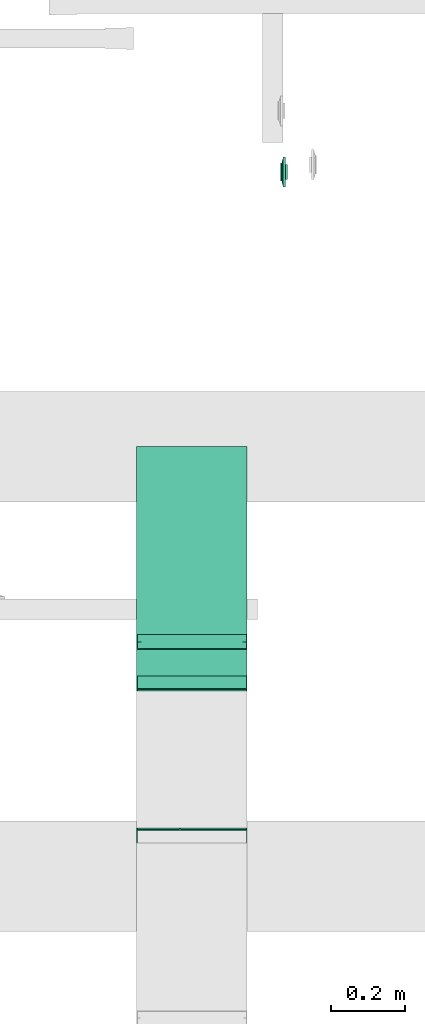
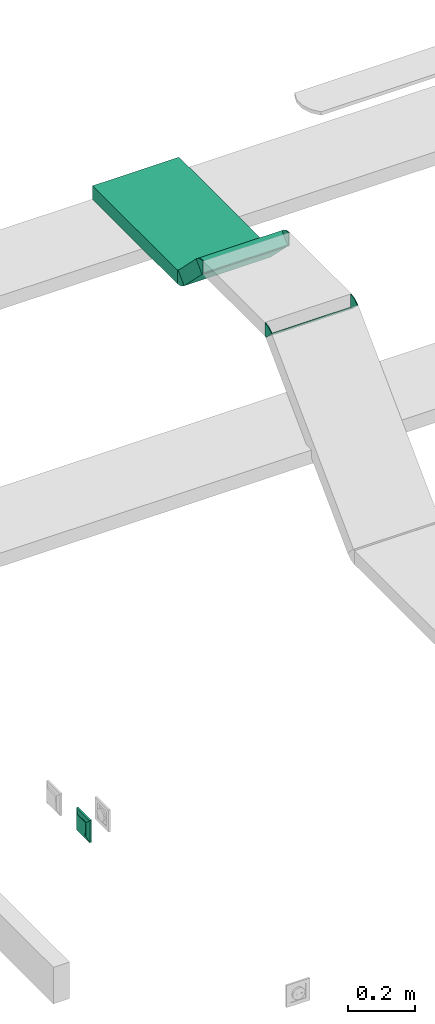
# One storey, part 100 of 153: 3 flow fittings, 2 flow segments, 1 flow terminal.
"""IFC2X3 building model written with IfcOpenShell, lengths in metres."""

import ifcopenshell
import ifcopenshell.guid

model = None  # the IFC model being written
_history = None  # IfcOwnerHistory: only IFC2X3 demands one
_inside = {}  # id of a spatial element -> (the spatial element, [elements in it])
_under = {}  # id of a project, library or spatial element -> (it, [spatial elements below it])
_declared = {}  # id of a project -> (the project, [libraries it declares])
_typed = {}  # id of a type object -> (the type object, [elements of that type])
_made_of = {}  # id of a material, layer set ... -> (it, [elements and type objects made of it])


def new_model(schema):
    """Start an empty IFC model of exactly this schema.

    Asked for "IFC4X3", IfcOpenShell would pick the latest addendum, in which some entities
    have other attributes; the version numbers below select the first issue.
    IFC2X3 requires an IfcOwnerHistory on every rooted entity: one is made here for all.
    """
    global model, _history
    if schema == "IFC4X3":
        model = ifcopenshell.file(schema_version=(4, 3, 0, 0))
    else:
        model = ifcopenshell.file(schema=schema)
    _inside.clear()
    _under.clear()
    _declared.clear()
    _typed.clear()
    _made_of.clear()
    _history = None
    if model.schema == "IFC2X3":
        org = make("IfcOrganization", Name="unknown")
        user = make(
            "IfcPersonAndOrganization",
            ThePerson=make("IfcPerson", FamilyName="unknown"),
            TheOrganization=org,
        )
        app = make(
            "IfcApplication",
            ApplicationDeveloper=org,
            Version="unknown",
            ApplicationFullName="unknown",
            ApplicationIdentifier="unknown",
        )
        _history = make(
            "IfcOwnerHistory",
            OwningUser=user,
            OwningApplication=app,
            ChangeAction="ADDED",
            CreationDate=0,
        )
    return model


def make(cls, **values):
    """One entity of the class cls with the attributes given. An attribute that is None is left unset."""
    return model.create_entity(
        cls, **{name: value for name, value in values.items() if value is not None}
    )


def entity(cls, *values):
    """Any entity or typed value of the class cls, its attributes in the order of the schema. None: left unset."""
    e = model.create_entity(cls)
    for i, value in enumerate(values):
        if value is not None:
            e[i] = value
    return e


def rooted(cls, **values):
    """An entity with a GlobalId (a new one), such as an element, a storey or a relation."""
    return make(cls, GlobalId=ifcopenshell.guid.new(), OwnerHistory=_history, **values)


def si_unit(unit_type, name, prefix=None):
    """IfcSIUnit, for example si_unit("LENGTHUNIT", "METRE", prefix="MILLI")."""
    return make("IfcSIUnit", UnitType=unit_type, Prefix=prefix, Name=name)


def converted_unit(unit_type, name, factor, base, dimensions=None, offset=None):
    """IfcConversionBasedUnit, such as the inch: factor (a typed value) times the base unit."""
    return make(
        "IfcConversionBasedUnit"
        if offset is None
        else "IfcConversionBasedUnitWithOffset",
        ConversionOffset=offset,
        Dimensions=None
        if dimensions is None
        else entity("IfcDimensionalExponents", *dimensions),
        UnitType=unit_type,
        Name=name,
        ConversionFactor=make(
            "IfcMeasureWithUnit", ValueComponent=factor, UnitComponent=base
        ),
    )


def derived_unit(unit_type, elements):
    """IfcDerivedUnit: a product of units, each with its exponent."""
    return make(
        "IfcDerivedUnit",
        Elements=[
            make("IfcDerivedUnitElement", Unit=unit, Exponent=power)
            for unit, power in elements
        ],
        UnitType=unit_type,
    )


def assignment(units):
    """IfcUnitAssignment: the units of a project."""
    return None if units is None else make("IfcUnitAssignment", Units=units)


def point(xyz):
    """IfcCartesianPoint."""
    return None if xyz is None else make("IfcCartesianPoint", Coordinates=xyz)


def direction(xyz):
    """IfcDirection."""
    return None if xyz is None else make("IfcDirection", DirectionRatios=xyz)


def frame(location, z_axis=None, x_axis=None):
    """IfcAxis2Placement3D, a coordinate frame: its origin and axes. An axis left out is left unset."""
    return make(
        "IfcAxis2Placement3D",
        Location=point(location),
        Axis=direction(z_axis),
        RefDirection=direction(x_axis),
    )


def frame_2d(location, x_axis=None):
    """IfcAxis2Placement2D, a coordinate frame in the plane: its origin and x axis."""
    return make(
        "IfcAxis2Placement2D", Location=point(location), RefDirection=direction(x_axis)
    )


def origin():
    """The frame at (0, 0, 0) with its axes left unset."""
    return frame((0.0, 0.0, 0.0))


def origin_2d_with_axis():
    """The frame at (0, 0) in the plane with the x axis (1, 0) written out."""
    return frame_2d((0.0, 0.0), x_axis=(1.0, 0.0))


def place(relative_to, where):
    """IfcLocalPlacement: puts the frame where relative to a parent placement (None: the world)."""
    return make(
        "IfcLocalPlacement", PlacementRelTo=relative_to, RelativePlacement=where
    )


def context(
    kind, dimensions, precision=None, world=None, true_north=None, identifier=None
):
    """IfcGeometricRepresentationContext, for example the 3D "Model" context."""
    return make(
        "IfcGeometricRepresentationContext",
        ContextIdentifier=identifier,
        ContextType=kind,
        CoordinateSpaceDimension=dimensions,
        Precision=precision,
        WorldCoordinateSystem=world,
        TrueNorth=true_north,
    )


def subcontext(parent, identifier, kind, view, scale=None):
    """IfcGeometricRepresentationSubContext, for example "Body" below "Model"."""
    return make(
        "IfcGeometricRepresentationSubContext",
        ContextIdentifier=identifier,
        ContextType=kind,
        ParentContext=parent,
        TargetScale=scale,
        TargetView=view,
    )


def project(units=None, contexts=None):
    """IfcProject with its units and contexts."""
    return rooted(
        "IfcProject",
        Name="project",
        RepresentationContexts=contexts,
        UnitsInContext=assignment(units),
    )


def spatial(cls, under=None, at=None, **own):
    """A site, building, storey or space (cls), placed at a placement, below another one or the project."""
    s = rooted(cls, ObjectPlacement=at, **own)
    if under is not None:
        _under.setdefault(under.id(), (under, []))[1].append(s)
    return s


def profile(cls, at=None, kind="AREA", **sizes):
    """A parametric profile (cls). Its sizes go by their IFC names, for example OverallWidth=200.0."""
    return make(cls, ProfileType=kind, Position=at, **sizes)


def rectangle(**sizes):
    """IfcRectangleProfileDef."""
    return profile("IfcRectangleProfileDef", **sizes)


def extrude(swept, where, along, depth):
    """IfcExtrudedAreaSolid: the profile swept, set in the frame where, extruded along a direction by depth."""
    return make(
        "IfcExtrudedAreaSolid",
        SweptArea=swept,
        Position=where,
        ExtrudedDirection=direction(along),
        Depth=depth,
    )


def faces_of(points, faces, orient=None, outer=None):
    """IfcFace entities. A face is a list of loops; a loop is a list of indices into points, from 0.

    orient and outer hold one flag for each loop. By default every Orientation is true, the
    first loop of a face is its IfcFaceOuterBound and the others are IfcFaceBound.
    """
    made = []
    for i, loops in enumerate(faces):
        bounds = []
        for j, loop in enumerate(loops):
            is_outer = j == 0 if outer is None else outer[i][j]
            bounds.append(
                make(
                    "IfcFaceOuterBound" if is_outer else "IfcFaceBound",
                    Bound=make("IfcPolyLoop", Polygon=[points[k] for k in loop]),
                    Orientation=True if orient is None else orient[i][j],
                )
            )
        made.append(make("IfcFace", Bounds=bounds))
    return made


def faceted_brep(points, faces, orient=None, outer=None, voids=None):
    """IfcFacetedBrep: a solid bounded by flat faces; with voids (closed shells), ...WithVoids."""
    shared = [point(p) for p in points]
    hull = make("IfcClosedShell", CfsFaces=faces_of(shared, faces, orient, outer))
    if voids is None:
        return make("IfcFacetedBrep", Outer=hull)
    return make(
        "IfcFacetedBrepWithVoids",
        Outer=hull,
        Voids=[
            make(cls, CfsFaces=faces_of(shared, fs, o, b)) for cls, fs, o, b in voids
        ],
    )


def shape(context_of_items, identifier, shape_type, items):
    """IfcShapeRepresentation: the items that make up one representation, for example the "Body"."""
    return make(
        "IfcShapeRepresentation",
        ContextOfItems=context_of_items,
        RepresentationIdentifier=identifier,
        RepresentationType=shape_type,
        Items=items,
    )


def source(mapping_origin, context_of_items, identifier, shape_type, items):
    """IfcRepresentationMap: a shape defined once, which mapped items show again and again."""
    return make(
        "IfcRepresentationMap",
        MappingOrigin=mapping_origin,
        MappedRepresentation=shape(context_of_items, identifier, shape_type, items),
    )


def transform(
    local_origin,
    x_axis=None,
    y_axis=None,
    z_axis=None,
    scale=None,
    scale2=None,
    scale3=None,
    uniform=True,
):
    """IfcCartesianTransformationOperator3D, or its non-uniform kind. x_axis, y_axis, z_axis: its Axis1, 2, 3."""
    if uniform:
        return make(
            "IfcCartesianTransformationOperator3D",
            Axis1=direction(x_axis),
            Axis2=direction(y_axis),
            LocalOrigin=point(local_origin),
            Scale=scale,
            Axis3=direction(z_axis),
        )
    return make(
        "IfcCartesianTransformationOperator3DnonUniform",
        Axis1=direction(x_axis),
        Axis2=direction(y_axis),
        LocalOrigin=point(local_origin),
        Scale=scale,
        Axis3=direction(z_axis),
        Scale2=scale2,
        Scale3=scale3,
    )


def mapped(mapping_source, mapping_target):
    """IfcMappedItem: shows the shape of a source again, moved by a transform."""
    return make(
        "IfcMappedItem", MappingSource=mapping_source, MappingTarget=mapping_target
    )


def made_of(thing, what):
    """Note that an element or type object is made of a material, layer set ...; save() writes the relation."""
    if what is not None:
        _made_of.setdefault(what.id(), (what, []))[1].append(thing)
    return thing


def type_object(cls, material=None, **own):
    """A type object (cls), such as IfcWallType, which elements share."""
    return made_of(rooted(cls, **own), material)


def type_shapes(of_type, sources):
    """Give a type object the sources (RepresentationMaps) that its elements show as mapped items."""
    of_type.RepresentationMaps = sources


def element(
    cls,
    number,
    at=None,
    inside=None,
    cuts=None,
    type_object=None,
    material=None,
    context=None,
    identifier="Body",
    shape_type=None,
    held_by="IfcProductDefinitionShape",
    body=None,
    shapes=None,
    **own,
):
    """One element of the class cls, such as IfcWall. Its Tag is "e" and its number.

    at: its placement. inside: the storey or other place that contains it. cuts: it is an
    opening in that element (IfcRelVoidsElement). A single representation is given by context,
    identifier, shape_type and body (its items); several are given by shapes. held_by: the class
    of the entity that holds the representations. save() writes the other relations.
    """
    e = rooted(cls, Tag="e%d" % number, ObjectPlacement=at, **own)
    if body is not None:
        shapes = [shape(context, identifier, shape_type, body)]
    if shapes is not None:
        e.Representation = make(held_by, Representations=shapes)
    if inside is not None:
        _inside.setdefault(inside.id(), (inside, []))[1].append(e)
    if cuts is not None:
        rooted(
            "IfcRelVoidsElement", RelatingBuildingElement=cuts, RelatedOpeningElement=e
        )
    if type_object is not None:
        _typed.setdefault(type_object.id(), (type_object, []))[1].append(e)
    return made_of(e, material)


def aggregate(whole, parts):
    """IfcRelAggregates: a whole, such as a stair, and the parts it consists of."""
    return rooted("IfcRelAggregates", RelatingObject=whole, RelatedObjects=parts)


def save(model, path):
    """Write the relations noted so far, then the file.

    IfcRelAggregates (storeys below a building ...), IfcRelContainedInSpatialStructure (elements
    in a storey), IfcRelDefinesByType, IfcRelAssociatesMaterial and IfcRelDeclares: one each for
    every whole, place, type object, material and project.
    """
    for whole, parts in _under.values():
        aggregate(whole, parts)
    for where, things in _inside.values():
        rooted(
            "IfcRelContainedInSpatialStructure",
            RelatedElements=things,
            RelatingStructure=where,
        )
    for kind, things in _typed.values():
        rooted("IfcRelDefinesByType", RelatedObjects=things, RelatingType=kind)
    for what, things in _made_of.values():
        rooted("IfcRelAssociatesMaterial", RelatedObjects=things, RelatingMaterial=what)
    for by, libraries in _declared.values():
        rooted("IfcRelDeclares", RelatingContext=by, RelatedDefinitions=libraries)
    model.write(path)


model = new_model("IFC2X3")

# Units and contexts
model_context = context("Model", 3, precision=1e-05, world=origin(), true_north=direction((6.12303176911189e-17, 1.0)))
body_context = subcontext(model_context, "Body", "Model", "MODEL_VIEW")
ifc_project = project(units=[si_unit("LENGTHUNIT", "METRE"), si_unit("AREAUNIT", "SQUARE_METRE"), si_unit("VOLUMEUNIT", "CUBIC_METRE"), converted_unit("PLANEANGLEUNIT", "DEGREE", entity("IfcRatioMeasure", 0.0174532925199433), si_unit("PLANEANGLEUNIT", "RADIAN"), dimensions=[0, 0, 0, 0, 0, 0, 0]), si_unit("MASSUNIT", "GRAM", prefix="KILO"), derived_unit("MASSDENSITYUNIT", [(si_unit("MASSUNIT", "GRAM", prefix="KILO"), 1), (si_unit("LENGTHUNIT", "METRE"), -3)]), si_unit("TIMEUNIT", "SECOND"), si_unit("FREQUENCYUNIT", "HERTZ"), si_unit("THERMODYNAMICTEMPERATUREUNIT", "DEGREE_CELSIUS"), derived_unit("THERMALTRANSMITTANCEUNIT", [(si_unit("MASSUNIT", "GRAM", prefix="KILO"), 1), (si_unit("THERMODYNAMICTEMPERATUREUNIT", "KELVIN"), -1), (si_unit("TIMEUNIT", "SECOND"), -3)]), derived_unit("VOLUMETRICFLOWRATEUNIT", [(si_unit("LENGTHUNIT", "METRE"), 3), (si_unit("TIMEUNIT", "SECOND"), -1)]), si_unit("ELECTRICCURRENTUNIT", "AMPERE"), si_unit("ELECTRICVOLTAGEUNIT", "VOLT"), si_unit("POWERUNIT", "WATT"), si_unit("FORCEUNIT", "NEWTON"), si_unit("ILLUMINANCEUNIT", "LUX"), si_unit("LUMINOUSFLUXUNIT", "LUMEN"), si_unit("LUMINOUSINTENSITYUNIT", "CANDELA"), derived_unit("USERDEFINED", [(si_unit("MASSUNIT", "GRAM", prefix="KILO"), -1), (si_unit("LENGTHUNIT", "METRE"), -2), (si_unit("TIMEUNIT", "SECOND"), 3), (si_unit("LUMINOUSFLUXUNIT", "LUMEN"), 1)]), derived_unit("LINEARVELOCITYUNIT", [(si_unit("LENGTHUNIT", "METRE"), 1), (si_unit("TIMEUNIT", "SECOND"), -1)]), si_unit("PRESSUREUNIT", "PASCAL"), derived_unit("USERDEFINED", [(si_unit("LENGTHUNIT", "METRE"), -2), (si_unit("MASSUNIT", "GRAM", prefix="KILO"), 1), (si_unit("TIMEUNIT", "SECOND"), -2)])], contexts=[model_context])

# Site, building, storey
site_placement = place(None, origin())
site = spatial("IfcSite", under=ifc_project, at=site_placement, Name="Default", CompositionType="ELEMENT")
building_placement = place(site_placement, origin())
building = spatial("IfcBuilding", under=site, at=building_placement, CompositionType="ELEMENT")
storey_placement = place(building_placement, frame((0.0, 0.0, -4.62)))
storey = spatial("IfcBuildingStorey", under=building, at=storey_placement, Name="S02", CompositionType="ELEMENT", Elevation=-4.62)

# Flow segments
cable_carrier_segment_type = type_object("IfcCableCarrierSegmentType", Name="Cable Tray with Fittings:Chemins de câbles en treillis_Chemins de câbles en treillis", PredefinedType="NOTDEFINED")
flow_segment_1_placement = place(building_placement, frame((0.0, 0.0, -4.62)))
element("IfcFlowSegment", 1, at=flow_segment_1_placement, inside=storey, type_object=cable_carrier_segment_type, Name="Cable Tray with Fittings:Chemins de câbles en treillis_Chemins de câbles en treillis", ObjectType="Cable Tray with Fittings:Chemins de câbles en treillis_Chemins de câbles en treillis", context=body_context, shape_type="SweptSolid", body=[
    extrude(rectangle(XDim=0.152073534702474, YDim=0.0500000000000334, at=origin_2d_with_axis()), frame((57.0504483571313, -189.286007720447, 4.02228866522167), z_axis=(1.0, 0.0, 0.0), x_axis=(0.0, 0.707106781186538, -0.707106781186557)), (0.0, 0.0, 1.0), 0.300000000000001),
])
flow_segment_2_placement = place(building_placement, frame((0.0, 0.0, -4.62)))
element("IfcFlowSegment", 2, at=flow_segment_2_placement, inside=storey, type_object=cable_carrier_segment_type, Name="Cable Tray with Fittings:Chemins de câbles en treillis_Chemins de câbles en treillis", ObjectType="Cable Tray with Fittings:Chemins de câbles en treillis_Chemins de câbles en treillis", context=body_context, shape_type="SweptSolid", body=[
    extrude(rectangle(XDim=0.509213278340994, YDim=0.300000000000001, at=origin_2d_with_axis()), frame((57.2004483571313, -188.954658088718, 3.93400521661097), z_axis=(0.0, 0.0, 1.0), x_axis=(0.0, -1.0, 0.0)), (0.0, 0.0, 1.0), 0.05),
])

# Flow terminal
light_fixture_type = type_object("IfcLightFixtureType", Name="VV IP21", PredefinedType="NOTDEFINED")
shared_shape_1 = source(origin(), body_context, "Body", "Brep", [
    faceted_brep([(0.0, 0.0209999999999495, -0.00460000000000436), (0.00543519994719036, 0.02028444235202, -0.00460000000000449), (0.0105000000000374, 0.0181865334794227, -0.00460000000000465), (0.0148492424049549, 0.014849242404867, -0.00460000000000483), (0.0181865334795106, 0.0104999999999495, -0.00460000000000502), (0.0202844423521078, 0.00543519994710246, -0.00460000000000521), (0.0210000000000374, 0.0, -0.00460000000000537), (0.0202844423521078, -0.00543519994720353, -0.00460000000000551), (0.0181865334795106, -0.0105000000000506, -0.0046000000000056), (0.0148492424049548, -0.0148492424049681, -0.00460000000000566), (0.0105000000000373, -0.0181865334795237, -0.00460000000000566), (0.00543519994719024, -0.0202844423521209, -0.00460000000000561), (0.0, -0.0210000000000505, -0.00460000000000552), (-0.00543519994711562, -0.0202844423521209, -0.00460000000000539), (-0.0104999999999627, -0.0181865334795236, -0.00460000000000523), (-0.0148492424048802, -0.0148492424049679, -0.00460000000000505), (-0.0181865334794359, -0.0105000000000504, -0.00460000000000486), (-0.0202844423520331, -0.00543519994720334, -0.00460000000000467), (-0.0209999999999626, 0.0, -0.00460000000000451), (-0.020284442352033, 0.00543519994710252, -0.00460000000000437), (-0.0181865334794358, 0.0104999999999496, -0.00460000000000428), (-0.0148492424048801, 0.0148492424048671, -0.00460000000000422), (-0.0104999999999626, 0.0181865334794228, -0.00460000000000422), (-0.00543519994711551, 0.02028444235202, -0.00460000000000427), (-0.020284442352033, -0.00543519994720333, 0.0), (-0.0209999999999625, 0.0, 0.0), (-0.0181865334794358, -0.0105000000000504, 0.0), (-0.0104999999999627, -0.0181865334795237, 0.0), (-0.0148492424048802, -0.0148492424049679, 0.0), (-0.00543519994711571, -0.020284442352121, 0.0), (0.0, -0.0210000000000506, 0.0), (0.00543519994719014, -0.0202844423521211, 0.0), (0.0105000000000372, -0.018186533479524, 0.0), (0.0181865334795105, -0.0105000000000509, 0.0), (0.0148492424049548, -0.0148492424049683, 0.0), (0.0202844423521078, -0.00543519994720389, 0.0), (0.0210000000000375, 0.0, 0.0), (0.0202844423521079, 0.00543519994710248, 0.0), (0.0181865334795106, 0.0104999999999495, 0.0), (0.0105000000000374, 0.0181865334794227, 0.0), (0.0148492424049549, 0.014849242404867, 0.0), (0.00543519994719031, 0.0202844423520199, 0.0), (0.0, 0.0209999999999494, 0.0), (-0.00543519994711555, 0.0202844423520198, 0.0), (-0.0104999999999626, 0.0181865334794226, 0.0), (-0.0181865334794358, 0.0104999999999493, 0.0), (-0.0148492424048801, 0.0148492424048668, 0.0), (-0.020284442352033, 0.00543519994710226, 0.0)], [[[0, 1, 2, 3, 4, 5, 6, 7, 8, 9, 10, 11, 12, 13, 14, 15, 16, 17, 18, 19, 20, 21, 22, 23]], [[17, 24, 25, 18]], [[16, 26, 24, 17]], [[27, 28, 15, 14]], [[16, 15, 28, 26]], [[29, 27, 14, 13]], [[30, 29, 13, 12]], [[11, 31, 30, 12]], [[10, 32, 31, 11]], [[33, 34, 9, 8]], [[10, 9, 34, 32]], [[35, 33, 8, 7]], [[36, 35, 7, 6]], [[5, 37, 36, 6]], [[4, 38, 37, 5]], [[39, 40, 3, 2]], [[4, 3, 40, 38]], [[41, 39, 2, 1]], [[42, 41, 1, 0]], [[23, 43, 42, 0]], [[22, 44, 43, 23]], [[45, 46, 21, 20]], [[22, 21, 46, 44]], [[47, 45, 20, 19]], [[25, 47, 19, 18]], [[25, 24, 26, 28, 27, 29, 30, 31, 32, 34, 33, 35, 36, 37, 38, 40, 39, 41, 42, 43, 44, 46, 45, 47]]]),
    faceted_brep([(0.0270000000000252, 0.026999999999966, 0.0103999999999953), (-0.0269999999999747, 0.026999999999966, 0.0103999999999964), (-0.0269999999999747, -0.0270000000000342, 0.0103999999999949), (0.0270000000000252, -0.0270000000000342, 0.0103999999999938), (-0.0254999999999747, 0.0258096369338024, 0.0103999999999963), (0.0255000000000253, 0.0258096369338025, 0.0103999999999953), (0.0255000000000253, -0.0255000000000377, 0.0103999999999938), (-0.0254999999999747, -0.0255000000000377, 0.0103999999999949), (0.0270000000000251, 0.0269999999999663, 0.00199999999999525), (0.0270000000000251, -0.0270000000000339, 0.00199999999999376), (-0.0269999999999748, -0.0270000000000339, 0.00199999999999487), (-0.0269999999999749, 0.0269999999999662, 0.00199999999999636), (0.0255000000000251, 0.0258096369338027, 0.00199999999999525), (-0.0254999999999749, 0.0258096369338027, 0.0019999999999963), (-0.0254999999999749, -0.0255000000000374, 0.00199999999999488), (0.0255000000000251, -0.0255000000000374, 0.00199999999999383)], [[[0, 1, 2, 3], [4, 5, 6, 7]], [[8, 9, 10, 11], [12, 13, 14, 15]], [[1, 0, 8, 11]], [[2, 1, 11, 10]], [[3, 2, 10, 9]], [[0, 3, 9, 8]], [[12, 5, 4, 13]], [[13, 4, 7, 14]], [[14, 7, 6, 15]], [[5, 12, 15, 6]]]),
    faceted_brep([(0.0250000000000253, 0.0253096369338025, 0.00659999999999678), (0.0250000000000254, 0.0253096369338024, 0.0117095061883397), (0.0250000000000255, -0.0245000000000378, 0.0142232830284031), (0.0250000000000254, -0.0250000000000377, 0.0117095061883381), (0.0250000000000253, -0.0250000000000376, 0.00659999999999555), (-0.0249999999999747, 0.0253096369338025, 0.00659999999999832), (-0.0249999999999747, -0.0250000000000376, 0.00659999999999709), (-0.0249999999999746, -0.0250000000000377, 0.0117095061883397), (-0.0249999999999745, -0.0245000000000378, 0.0142232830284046), (-0.0249999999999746, 0.0253096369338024, 0.0117095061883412)], [[[0, 1, 2, 3, 4]], [[5, 6, 7, 8, 9]], [[1, 0, 5, 9]], [[2, 1, 9, 8]], [[3, 2, 8, 7]], [[4, 3, 7, 6]], [[0, 4, 6, 5]]]),
    faceted_brep([(0.027000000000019, 0.0269999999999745, 0.00659999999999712), (-0.0269999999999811, 0.0269999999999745, 0.00659999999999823), (-0.026999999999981, -0.0270000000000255, 0.00659999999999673), (0.027000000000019, -0.0270000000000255, 0.00659999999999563), (0.040350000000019, 0.0403499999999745, 0.00659999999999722), (0.040350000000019, -0.0403500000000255, 0.00659999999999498), (-0.0403499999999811, -0.0403500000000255, 0.00659999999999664), (-0.0403499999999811, 0.0403499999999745, 0.00659999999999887), (-0.026999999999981, 0.0269999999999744, 0.0103999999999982), (0.027000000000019, 0.0269999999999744, 0.0103999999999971), (-0.026999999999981, -0.0270000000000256, 0.0103999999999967), (0.027000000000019, -0.0270000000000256, 0.0103999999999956)], [[[0, 1, 2, 3], [4, 5, 6, 7]], [[4, 7, 8, 9]], [[7, 6, 10, 8]], [[6, 5, 11, 10]], [[5, 4, 9, 11]], [[0, 9, 8, 1]], [[1, 8, 10, 2]], [[2, 10, 11, 3]], [[9, 0, 3, 11]]], outer=[[False, True], [True], [True], [True], [True], [True], [True], [True], [True]]),
    faceted_brep([(0.040350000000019, 0.0403499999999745, 0.00659999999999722), (-0.0403499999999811, 0.0403499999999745, 0.00659999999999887), (-0.0403499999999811, -0.0403500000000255, 0.00659999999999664), (0.040350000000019, -0.0403500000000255, 0.00659999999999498), (-0.0269999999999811, 0.0269999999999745, 0.00659999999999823), (0.0270000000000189, 0.0269999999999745, 0.00659999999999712), (0.0270000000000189, -0.0270000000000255, 0.00659999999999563), (-0.0269999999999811, -0.0270000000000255, 0.00659999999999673), (0.0403500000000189, 0.0403499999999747, 0.0), (0.0403500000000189, -0.0403500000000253, 0.0), (-0.0403499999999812, -0.0403500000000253, 0.0), (-0.0403499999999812, 0.0403499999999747, 0.0), (0.0270000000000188, 0.0269999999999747, 0.0), (-0.0269999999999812, 0.0269999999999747, 0.0), (-0.0269999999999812, -0.0270000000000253, 0.0), (0.0270000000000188, -0.0270000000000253, 0.0)], [[[0, 1, 2, 3], [4, 5, 6, 7]], [[8, 9, 10, 11], [12, 13, 14, 15]], [[1, 0, 8, 11]], [[2, 1, 11, 10]], [[3, 2, 10, 9]], [[0, 3, 9, 8]], [[12, 5, 4, 13]], [[13, 4, 7, 14]], [[14, 7, 6, 15]], [[5, 12, 15, 6]]]),
])
type_shapes(light_fixture_type, [shared_shape_1])
flow_terminal_placement = place(storey_placement, frame((57.4547436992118, -187.9545827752, 1.05000000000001), z_axis=(-1.0, 0.0, 0.0), x_axis=(0.0, -1.0, 0.0)))
element("IfcFlowTerminal", 3, at=flow_terminal_placement, inside=storey, type_object=light_fixture_type, Name="INT_Inter VV:VV IP21", ObjectType="INT_Inter VV:VV IP21", context=body_context, shape_type="MappedRepresentation", body=[
    mapped(shared_shape_1, transform((0.0, 0.0, 0.0), scale=1.0)),
])

# Flow fittings
cable_carrier_fitting_type_1 = type_object("IfcCableCarrierFittingType", Name="E_Bend_Vertical_Inside_CA_Generic_MEPcontent", PredefinedType="NOTDEFINED")
shared_shape_2 = source(origin(), body_context, "Body", "Brep", [
    faceted_brep([(-0.00886744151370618, 0.0264878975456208, 0.14746000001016), (-0.00886744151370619, 0.0264878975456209, 0.15), (0.0264878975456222, -0.00886744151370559, 0.15), (0.0264878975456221, -0.0088674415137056, 0.0), (0.0264878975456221, -0.00886744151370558, -0.15), (-0.00886744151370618, 0.0264878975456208, -0.15), (-0.00886744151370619, 0.0264878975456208, -0.14746000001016), (0.0246918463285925, -0.00707139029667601, -0.14746000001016), (0.0246918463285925, -0.00707139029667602, 0.0), (0.0246918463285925, -0.007071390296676, 0.14746000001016), (-0.0124595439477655, 0.025, -0.14746000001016), (-0.0124595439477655, 0.025, -0.15), (-0.0124595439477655, -0.025, -0.15), (-0.0124595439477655, -0.025, 0.0), (-0.0124595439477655, -0.025, 0.15), (-0.0124595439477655, 0.025, 0.15), (-0.0124595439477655, 0.025, 0.14746000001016), (-0.0124595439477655, -0.02246000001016, 0.14746000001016), (-0.0124595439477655, -0.02246000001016, 0.0), (-0.0124595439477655, -0.02246000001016, -0.14746000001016), (-0.00192044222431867, -0.0229036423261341, 0.15), (0.00861865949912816, -0.0208072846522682, 0.15), (0.0175532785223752, -0.0148373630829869, 0.15), (-0.0105155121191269, 0.0253866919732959, 0.15), (-0.0105155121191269, 0.0253866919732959, 0.14746000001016), (0.0161692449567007, -0.0127660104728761, 0.14746000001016), (0.00764664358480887, -0.0184606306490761, 0.14746000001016), (-0.00240645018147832, -0.0204603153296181, 0.14746000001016), (-0.00240645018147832, -0.0204603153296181, -0.14746000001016), (0.00764664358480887, -0.0184606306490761, -0.14746000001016), (0.0161692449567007, -0.0127660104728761, -0.14746000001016), (-0.0105155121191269, 0.0253866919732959, -0.14746000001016), (-0.0105155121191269, 0.0253866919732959, -0.15), (0.0175532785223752, -0.0148373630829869, -0.15), (0.00861865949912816, -0.0208072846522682, -0.15), (-0.00192044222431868, -0.0229036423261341, -0.15), (0.00352933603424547, -0.0226282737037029, 0.0), (0.0151733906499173, -0.0175669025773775, 0.0), (0.00279201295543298, -0.0201976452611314, 0.0), (0.0144110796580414, -0.0150688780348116, 0.0)], [[[0, 1, 2, 3, 4, 5, 6, 7, 8, 9]], [[10, 11, 12, 13, 14, 15, 16, 17, 18, 19]], [[15, 14, 20, 21, 22, 2, 1, 23]], [[24, 0, 9, 25, 26, 27, 17, 16]], [[10, 19, 28, 29, 30, 7, 6, 31]], [[32, 5, 4, 33, 34, 35, 12, 11]], [[35, 36, 13]], [[33, 3, 37]], [[34, 36, 35]], [[34, 37, 36]], [[37, 3, 22]], [[3, 33, 4]], [[2, 22, 3]], [[21, 20, 36]], [[37, 21, 36]], [[37, 34, 33]], [[20, 13, 36]], [[13, 20, 14]], [[12, 35, 13]], [[22, 21, 37]], [[31, 32, 11, 10]], [[15, 23, 24, 16]], [[6, 5, 32, 31]], [[1, 0, 24, 23]], [[18, 38, 28]], [[39, 8, 30]], [[28, 38, 29]], [[38, 39, 29]], [[25, 8, 39]], [[7, 30, 8]], [[8, 25, 9]], [[38, 27, 26]], [[38, 26, 39]], [[30, 29, 39]], [[38, 18, 27]], [[17, 27, 18]], [[18, 28, 19]], [[39, 26, 25]]]),
    faceted_brep([(-0.00886744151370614, 0.0264878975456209, 0.15), (-0.00886744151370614, 0.0264878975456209, 0.14746000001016), (0.0246918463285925, -0.00707139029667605, 0.14746000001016), (0.0246918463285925, -0.00707139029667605, -0.14746000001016), (-0.00886744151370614, 0.0264878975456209, -0.14746000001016), (-0.00886744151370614, 0.0264878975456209, -0.15), (0.0264878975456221, -0.00886744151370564, -0.15), (0.0264878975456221, -0.00886744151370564, 0.15), (-0.00816033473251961, 0.0271950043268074, 0.15), (0.0271950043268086, -0.00816033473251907, 0.15), (0.0271950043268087, -0.00816033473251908, -0.15), (-0.00816033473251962, 0.0271950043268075, -0.15), (-0.00816033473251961, 0.0271950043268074, -0.14746000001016), (0.025398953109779, -0.00636428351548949, -0.14746000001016), (0.025398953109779, -0.00636428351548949, 0.14746000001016), (-0.00816033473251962, 0.0271950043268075, 0.14746000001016)], [[[0, 1, 2, 3, 4, 5, 6, 7]], [[8, 9, 10, 11, 12, 13, 14, 15]], [[6, 5, 11, 10]], [[4, 3, 13, 12]], [[2, 1, 15, 14]], [[0, 7, 9, 8]], [[1, 0, 8, 15]], [[3, 2, 14, 13]], [[5, 4, 12, 11]], [[7, 6, 10, 9]]]),
    faceted_brep([(-0.0124595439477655, 0.025, 0.15), (-0.0124595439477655, -0.025, 0.15), (-0.0124595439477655, -0.025, -0.15), (-0.0124595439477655, 0.025, -0.15), (-0.0124595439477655, 0.025, -0.14746000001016), (-0.0124595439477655, -0.02246000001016, -0.14746000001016), (-0.0124595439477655, -0.02246000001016, 0.14746000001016), (-0.0124595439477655, 0.025, 0.14746000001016), (-0.0134595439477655, 0.025, 0.15), (-0.0134595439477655, 0.025, 0.14746000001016), (-0.0134595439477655, -0.02246000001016, 0.14746000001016), (-0.0134595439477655, -0.02246000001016, -0.14746000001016), (-0.0134595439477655, 0.025, -0.14746000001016), (-0.0134595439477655, 0.025, -0.15), (-0.0134595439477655, -0.025, -0.15), (-0.0134595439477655, -0.025, 0.15)], [[[0, 1, 2, 3, 4, 5, 6, 7]], [[8, 9, 10, 11, 12, 13, 14, 15]], [[1, 0, 8, 15]], [[7, 6, 10, 9]], [[5, 4, 12, 11]], [[3, 2, 14, 13]], [[2, 1, 15, 14]], [[4, 3, 13, 12]], [[6, 5, 11, 10]], [[0, 7, 9, 8]]]),
])
type_shapes(cable_carrier_fitting_type_1, [shared_shape_2])
flow_fitting_placement = place(building_placement, frame((57.2004483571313, -189.222724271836, -0.660994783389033), z_axis=(1.0, 0.0, 0.0), x_axis=(0.0, 0.707106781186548, -0.707106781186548)))
element("IfcFlowFitting", 4, at=flow_fitting_placement, inside=storey, type_object=cable_carrier_fitting_type_1, Name="E_Bend_Vertical_Inside_CA_Generic_MEPcontent:E_Bend_Vertical_Inside_CA_Generic_MEPcontent", ObjectType="E_Bend_Vertical_Inside_CA_Generic_MEPcontent:E_Bend_Vertical_Inside_CA_Generic_MEPcontent", context=body_context, shape_type="MappedRepresentation", body=[
    mapped(shared_shape_2, transform((0.0, 0.0, 0.0), scale=1.0)),
])
cable_carrier_fitting_type_2 = type_object("IfcCableCarrierFittingType", Name="E_Bend_Vertical_Outside_CA_Generic_MEPcontent", PredefinedType="NOTDEFINED")
shared_shape_3 = source(origin(), body_context, "Body", "Brep", [
    faceted_brep([(-0.00707139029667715, 0.0246918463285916, 0.14746000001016), (-0.00707139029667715, 0.0246918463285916, 0.123363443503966), (-0.00707139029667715, 0.0246918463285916, 0.0963862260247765), (-0.00707139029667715, 0.0246918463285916, 0.0708493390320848), (-0.00707139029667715, 0.0246918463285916, 0.045312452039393), (-0.00707139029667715, 0.0246918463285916, 0.0212158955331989), (-0.00707139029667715, 0.0246918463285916, -0.00288066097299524), (-0.00707139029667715, 0.0246918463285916, -0.0269772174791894), (-0.00707139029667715, 0.0246918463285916, -0.0510737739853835), (-0.00707139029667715, 0.0246918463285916, -0.0751703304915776), (-0.00707139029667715, 0.0246918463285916, -0.0992668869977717), (-0.00707139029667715, 0.0246918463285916, -0.123363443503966), (-0.00707139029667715, 0.0246918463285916, -0.14746000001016), (0.0264878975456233, -0.00886744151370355, -0.14746000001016), (0.0264878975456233, -0.00886744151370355, -0.15), (-0.00886744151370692, 0.026487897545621, -0.15), (-0.00886744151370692, 0.026487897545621, -0.130325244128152), (-0.00886744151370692, 0.026487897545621, -0.110650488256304), (-0.00886744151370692, 0.026487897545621, -0.0909757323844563), (-0.00886744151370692, 0.026487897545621, -0.0713009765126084), (-0.00886744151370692, 0.026487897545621, -0.0516262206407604), (-0.00886744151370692, 0.026487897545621, -0.0319514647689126), (-0.00886744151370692, 0.026487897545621, -0.0122767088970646), (-0.00886744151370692, 0.026487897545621, 0.00739804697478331), (-0.00886744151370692, 0.026487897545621, 0.0252232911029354), (-0.00886744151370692, 0.026487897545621, 0.0430485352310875), (-0.00886744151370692, 0.026487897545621, 0.0608737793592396), (-0.00886744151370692, 0.026487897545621, 0.0786990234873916), (-0.00886744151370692, 0.026487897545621, 0.0946747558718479), (-0.00886744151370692, 0.026487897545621, 0.110650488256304), (-0.00886744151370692, 0.026487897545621, 0.130325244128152), (-0.00886744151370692, 0.026487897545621, 0.15), (0.0264878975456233, -0.00886744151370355, 0.15), (0.0264878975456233, -0.00886744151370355, 0.14746000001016), (-0.0124595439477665, 0.02246000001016, -0.14746000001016), (-0.0124595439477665, 0.02246000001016, -0.123363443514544), (-0.0124595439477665, 0.02246000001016, -0.0992668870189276), (-0.0124595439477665, 0.02246000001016, -0.0751703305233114), (-0.0124595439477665, 0.02246000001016, -0.0510737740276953), (-0.0124595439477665, 0.02246000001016, -0.0255368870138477), (-0.0124595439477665, 0.02246000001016, 0.0), (-0.0124595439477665, 0.02246000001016, 0.03686500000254), (-0.0124595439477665, 0.02246000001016, 0.05529750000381), (-0.0124595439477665, 0.02246000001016, 0.07373000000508), (-0.0124595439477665, 0.02246000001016, 0.11059500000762), (-0.0124595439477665, 0.02246000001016, 0.14746000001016), (-0.0124595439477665, -0.025, 0.14746000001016), (-0.0124595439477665, -0.025, 0.15), (-0.0124595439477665, 0.025, 0.15), (-0.0124595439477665, 0.025, 0.130325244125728), (-0.0124595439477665, 0.025, 0.1125), (-0.0124595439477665, 0.025, 0.09375), (-0.0124595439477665, 0.025, 0.075), (-0.0124595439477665, 0.025, 0.05625), (-0.0124595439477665, 0.025, 0.0375), (-0.0124595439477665, 0.025, 0.01875), (-0.0124595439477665, 0.025, 0.0), (-0.0124595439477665, 0.025, -0.0178252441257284), (-0.0124595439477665, 0.025, -0.0356504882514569), (-0.0124595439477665, 0.025, -0.0534757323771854), (-0.0124595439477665, 0.025, -0.0713009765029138), (-0.0124595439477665, 0.025, -0.0909757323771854), (-0.0124595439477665, 0.025, -0.110650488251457), (-0.0124595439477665, 0.025, -0.130325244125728), (-0.0124595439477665, 0.025, -0.15), (-0.0124595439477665, -0.025, -0.15), (-0.0124595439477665, -0.025, -0.14746000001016), (-0.00192044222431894, -0.0229036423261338, 0.15), (0.00861865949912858, -0.0208072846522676, 0.15), (0.0175532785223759, -0.0148373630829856, 0.15), (-0.0105155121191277, 0.025386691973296, 0.15), (-0.00456795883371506, -0.0234302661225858, 0.14746000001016), (0.00861865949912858, -0.0208072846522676, 0.14746000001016), (-0.00192044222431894, -0.0229036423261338, -0.15), (0.00861865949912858, -0.0208072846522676, -0.15), (0.00861865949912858, -0.0208072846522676, -0.14746000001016), (-0.00192044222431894, -0.0229036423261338, -0.14746000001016), (0.0175532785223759, -0.0148373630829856, 0.14746000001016), (0.0197977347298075, -0.0133376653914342, -0.15), (0.0175532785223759, -0.0148373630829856, -0.14746000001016), (-0.00954349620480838, 0.023040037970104, 0.14746000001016), (-0.00954349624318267, 0.0230400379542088, -0.0631220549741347), (-0.00954270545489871, 0.0230403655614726, -0.0382951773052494), (-0.00954349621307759, 0.0230400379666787, -0.11131516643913), (-0.00954349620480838, 0.023040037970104, -0.14746000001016), (-0.00934317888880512, 0.0231263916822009, 0.0332641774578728), (-0.00982348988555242, 0.0229304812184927, 0.124114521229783), (-0.00961193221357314, 0.0230120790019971, 0.0645137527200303), (-0.00948913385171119, 0.0230628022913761, -0.0872186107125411), (-0.00945057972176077, 0.023079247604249, 0.00916762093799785), (-0.00981715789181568, 0.0229328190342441, 0.0889891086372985), (-0.00946151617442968, 0.0230745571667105, -0.0145678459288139), (-0.0105155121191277, 0.025386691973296, -0.15), (-0.0106356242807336, 0.0253387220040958, -0.026737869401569), (-0.0104683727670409, 0.0254064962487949, -0.0429918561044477), (-0.0105155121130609, 0.0253866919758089, -0.105328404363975), (-0.0105155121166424, 0.0253866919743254, -0.120487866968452), (-0.0105155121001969, 0.0253866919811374, -0.0623883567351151), (-0.0105155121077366, 0.0253866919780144, -0.0781480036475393), (-0.01051551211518, 0.0253866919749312, 0.121412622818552), (-0.010348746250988, 0.0254592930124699, 0.016310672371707), (-0.0104407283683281, 0.0254183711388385, 0.00148144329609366), (-0.0106519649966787, 0.0253324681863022, -0.0125818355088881), (-0.010483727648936, 0.025399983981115, 0.0866868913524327), (-0.0105609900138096, 0.0253681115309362, 0.106209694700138), (-0.0103966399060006, 0.02543771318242, 0.135706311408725), (-0.010551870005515, 0.0253717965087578, -0.135243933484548), (-0.0104226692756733, 0.0254262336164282, 0.071338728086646), (-0.0104368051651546, 0.0254200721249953, 0.03716180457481), (-0.0103768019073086, 0.0254465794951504, 0.0519611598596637), (-0.0104363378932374, 0.0254202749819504, -0.0917382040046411)], [[[0, 1, 2, 3, 4, 5, 6, 7, 8, 9, 10, 11, 12, 13, 14, 15, 16, 17, 18, 19, 20, 21, 22, 23, 24, 25, 26, 27, 28, 29, 30, 31, 32, 33]], [[34, 35, 36, 37, 38, 39, 40, 41, 42, 43, 44, 45, 46, 47, 48, 49, 50, 51, 52, 53, 54, 55, 56, 57, 58, 59, 60, 61, 62, 63, 64, 65, 66]], [[48, 47, 67, 68, 69, 32, 31, 70]], [[67, 47, 46, 71, 72, 68]], [[65, 73, 74, 75, 76, 66]], [[69, 68, 72, 77, 33, 32]], [[74, 78, 14, 13, 79, 75]], [[80, 0, 33, 77, 72, 71, 46, 45]], [[81, 8, 82]], [[81, 82, 38]], [[83, 84, 12, 11, 10]], [[1, 0, 80]], [[5, 4, 85]], [[86, 1, 80]], [[85, 4, 87]], [[86, 45, 44]], [[38, 82, 39]], [[81, 88, 9]], [[42, 41, 85]], [[89, 6, 5]], [[8, 81, 9]], [[36, 88, 37]], [[2, 86, 90]], [[87, 90, 43]], [[89, 41, 40]], [[35, 34, 84, 83, 36]], [[36, 83, 88]], [[10, 9, 88]], [[82, 91, 39]], [[82, 7, 91]], [[89, 91, 6]], [[89, 5, 85]], [[91, 40, 39]], [[91, 89, 40]], [[81, 38, 37]], [[7, 82, 8]], [[7, 6, 91]], [[37, 88, 81]], [[10, 88, 83]], [[87, 42, 85]], [[89, 85, 41]], [[90, 87, 3]], [[4, 3, 87]], [[43, 42, 87]], [[90, 3, 2]], [[86, 2, 1]], [[44, 43, 90]], [[45, 86, 80]], [[90, 86, 44]], [[34, 66, 76, 75, 79, 13, 12, 84]], [[92, 15, 14, 78, 74, 73, 65, 64]], [[93, 94, 58]], [[95, 96, 63, 62, 61]], [[60, 97, 98]], [[50, 49, 99]], [[100, 101, 56]], [[56, 102, 57]], [[17, 16, 96]], [[28, 103, 104]], [[49, 105, 99]], [[106, 16, 15]], [[19, 18, 98, 97, 20]], [[99, 30, 29]], [[17, 96, 95, 18]], [[92, 64, 106]], [[52, 107, 53]], [[57, 93, 58]], [[105, 49, 48]], [[16, 106, 96]], [[104, 99, 29]], [[107, 52, 103]], [[51, 104, 103]], [[105, 70, 31]], [[99, 105, 30]], [[24, 23, 100]], [[108, 100, 55]], [[50, 99, 104]], [[25, 108, 109]], [[104, 51, 50]], [[26, 25, 109]], [[27, 103, 28]], [[104, 29, 28]], [[51, 103, 52]], [[107, 109, 53]], [[107, 103, 27]], [[108, 54, 109]], [[107, 27, 26]], [[26, 109, 107]], [[53, 109, 54]], [[54, 108, 55]], [[108, 25, 24]], [[106, 63, 96]], [[24, 100, 108]], [[55, 100, 56]], [[101, 22, 102]], [[101, 100, 23]], [[101, 23, 22]], [[102, 93, 57]], [[59, 94, 97]], [[21, 93, 22]], [[21, 94, 93]], [[20, 94, 21]], [[59, 58, 94]], [[60, 59, 97]], [[98, 61, 60]], [[20, 97, 94]], [[110, 95, 61]], [[98, 18, 110]], [[93, 102, 22]], [[101, 102, 56]], [[30, 105, 31]], [[48, 70, 105]], [[63, 106, 64]], [[15, 92, 106]], [[98, 110, 61]], [[110, 18, 95]]]),
    faceted_brep([(-0.00886744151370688, 0.0264878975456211, 0.15), (-0.00886744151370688, 0.0264878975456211, -0.15), (0.0264878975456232, -0.00886744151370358, -0.15), (0.0264878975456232, -0.00886744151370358, -0.14746000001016), (-0.00707139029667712, 0.0246918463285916, -0.14746000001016), (-0.00707139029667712, 0.0246918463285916, 0.14746000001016), (0.0264878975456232, -0.00886744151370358, 0.14746000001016), (0.0264878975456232, -0.00886744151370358, 0.15), (-0.0081603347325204, 0.0271950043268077, 0.15), (0.0271950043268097, -0.00816033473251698, 0.15), (0.0271950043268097, -0.00816033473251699, 0.14746000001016), (-0.00636428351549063, 0.0253989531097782, 0.14746000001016), (-0.00636428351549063, 0.0253989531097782, -0.14746000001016), (0.0271950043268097, -0.00816033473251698, -0.14746000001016), (0.0271950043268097, -0.00816033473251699, -0.15), (-0.00816033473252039, 0.0271950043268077, -0.15)], [[[0, 1, 2, 3, 4, 5, 6, 7]], [[8, 9, 10, 11, 12, 13, 14, 15]], [[1, 0, 8, 15]], [[2, 1, 15, 14]], [[3, 2, 14, 13]], [[4, 3, 13, 12]], [[5, 4, 12, 11]], [[6, 5, 11, 10]], [[7, 6, 10, 9]], [[0, 7, 9, 8]]]),
    faceted_brep([(-0.0124595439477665, 0.025, 0.15), (-0.0124595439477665, -0.025, 0.15), (-0.0124595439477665, -0.025, 0.14746000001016), (-0.0124595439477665, 0.02246000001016, 0.14746000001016), (-0.0124595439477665, 0.02246000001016, -0.14746000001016), (-0.0124595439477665, -0.025, -0.14746000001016), (-0.0124595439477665, -0.025, -0.15), (-0.0124595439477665, 0.025, -0.15), (-0.0134595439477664, 0.025, 0.15), (-0.0134595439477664, 0.025, -0.15), (-0.0134595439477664, -0.025, -0.15), (-0.0134595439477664, -0.025, -0.14746000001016), (-0.0134595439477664, 0.02246000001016, -0.14746000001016), (-0.0134595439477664, 0.02246000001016, 0.14746000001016), (-0.0134595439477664, -0.025, 0.14746000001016), (-0.0134595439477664, -0.025, 0.15)], [[[0, 1, 2, 3, 4, 5, 6, 7]], [[8, 9, 10, 11, 12, 13, 14, 15]], [[1, 0, 8, 15]], [[2, 1, 15, 14]], [[3, 2, 14, 13]], [[4, 3, 13, 12]], [[5, 4, 12, 11]], [[6, 5, 11, 10]], [[7, 6, 10, 9]], [[0, 7, 9, 8]]]),
])
type_shapes(cable_carrier_fitting_type_2, [shared_shape_3])
for number, where, z_axis, x_axis in (
    (5, (57.2004483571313, -189.74790731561, -0.534427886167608), (-1.0, 0.0, 0.0), (0.0, 0.707106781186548, 0.707106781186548)),
    (6, (57.2004483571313, -189.349291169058, -0.534427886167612), (-1.0, 0.0, 0.0), (0.0, 1.0, 0.0)),
):
    element("IfcFlowFitting", number, at=place(building_placement, frame(where, z_axis=z_axis, x_axis=x_axis)), inside=storey, type_object=cable_carrier_fitting_type_2, Name="E_Bend_Vertical_Outside_CA_Generic_MEPcontent:E_Bend_Vertical_Outside_CA_Generic_MEPcontent", ObjectType="E_Bend_Vertical_Outside_CA_Generic_MEPcontent:E_Bend_Vertical_Outside_CA_Generic_MEPcontent", context=body_context, shape_type="MappedRepresentation", body=[
        mapped(shared_shape_3, transform((0.0, 0.0, 0.0), scale=1.0)),
    ])

save(model, "model.ifc")
